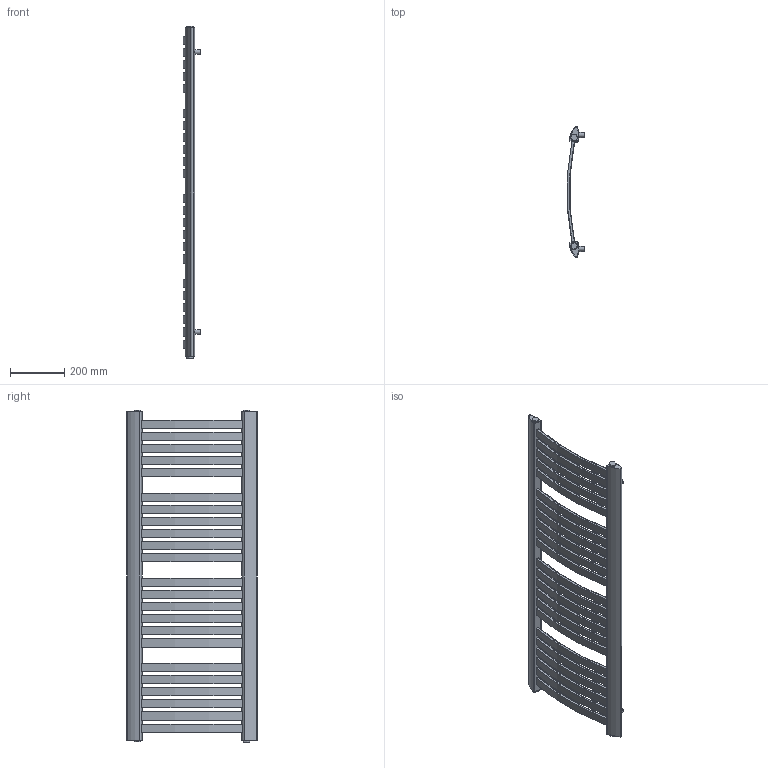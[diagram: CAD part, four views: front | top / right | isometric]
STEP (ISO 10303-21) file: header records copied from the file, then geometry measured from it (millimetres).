
FILE_DESCRIPTION(/* description */ (''),/* implementation_level */ '2;1');
FILE_NAME(/* name */ 'C:\Grzejniki\13DLUXRAD\łazienkowe\KASTOR\KASTOR 1216x480.iam.stp',/* time_stamp */ '2016-06-28T17:34:58+02:00',/* author */ ('m.szydziak'),/* organization */ (''),/* preprocessor_version */ 'ST-DEVELOPER v16.5',/* originating_system */ 'Autodesk Inventor 2017',/* authorisation */ '');
FILE_SCHEMA (('AUTOMOTIVE_DESIGN { 1 0 10303 214 3 1 1 }'));
Length unit declared in the file: millimetre
Products named in the file (6): KASTOR 1216x480; 30x10x384x1; 56x34x1,2x1216; zaślepka 56x34 G0,5inch; uchwyt stały; korek
Assembly tree (37 placements, depth 2):
  KASTOR 1216x480
    30x10x384x1  x23
    56x34x1,2x1216  x2
    zaślepka 56x34 G0,5inch  x4
    uchwyt stały  x4
    korek  x4
Bounding box: 64.05 x 481.97 x 1228 mm (x, y, z)
Volume: 1109997.8 mm3; surface area: 2068891.8 mm2
Topology: 37 solids, 37 shells, 922 faces, 2364 edges, 1516 vertices
Faces by surface type: plane 774, cylinder 148
Full cylindrical faces by diameter (mm): 15 x4, 18 x4, 18.631 x4, 24 x4
Entity records: 5542 total; most frequent: CARTESIAN_POINT 931, DIRECTION 904, ORIENTED_EDGE 874, EDGE_CURVE 437, LINE 376, VECTOR 376, VERTEX_POINT 291, AXIS2_PLACEMENT_3D 264
